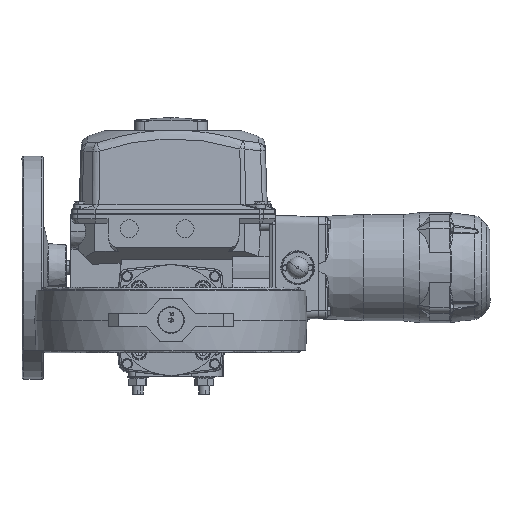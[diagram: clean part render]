
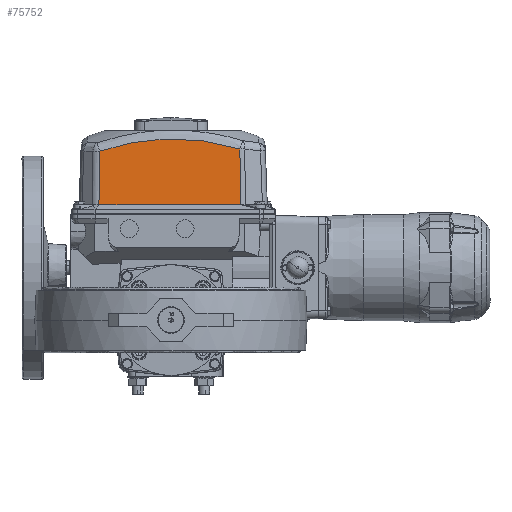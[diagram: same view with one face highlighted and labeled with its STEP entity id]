
A CAD part, front view. The second image highlights one B-rep face of the part: STEP entity #75752.
In plain terms, the highlighted planar face has unit normal (0, -0.999, 0.035).
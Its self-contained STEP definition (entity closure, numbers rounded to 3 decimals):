
#475 = LINE ( 'NONE', #98282, #86216 ) ;
#2843 = DIRECTION ( 'NONE',  ( 0., 0.999, -0.035 ) ) ;
#4308 = CARTESIAN_POINT ( 'NONE',  ( -18.396, 309.472, 203.554 ) ) ;
#5315 = CARTESIAN_POINT ( 'NONE',  ( 71.005, 309.17, 194.904 ) ) ;
#6936 = ORIENTED_EDGE ( 'NONE', *, *, #75348, .T. ) ;
#11590 = DIRECTION ( 'NONE',  ( -0.009, 0.035, 0.999 ) ) ;
#12003 = EDGE_CURVE ( 'NONE', #60743, #15811, #95377, .T. ) ;
#12057 = CARTESIAN_POINT ( 'NONE',  ( -28.465, 309.44, 202.616 ) ) ;
#12391 = CARTESIAN_POINT ( 'NONE',  ( 64.482, 309.231, 196.631 ) ) ;
#12744 = CARTESIAN_POINT ( 'NONE',  ( 11.717, 309.498, 204.294 ) ) ;
#13145 = DIRECTION ( 'NONE',  ( -1., 0., 0. ) ) ;
#13436 = CARTESIAN_POINT ( 'NONE',  ( -4.976, 309.499, 204.306 ) ) ;
#15811 = VERTEX_POINT ( 'NONE', #70556 ) ;
#17348 = PLANE ( 'NONE',  #62751 ) ;
#19731 = CARTESIAN_POINT ( 'NONE',  ( -80.655, 309.016, 190.479 ) ) ;
#20487 = CARTESIAN_POINT ( 'NONE',  ( -15.035, 309.481, 203.805 ) ) ;
#20827 = CARTESIAN_POINT ( 'NONE',  ( -48.318, 309.327, 199.397 ) ) ;
#21465 = CARTESIAN_POINT ( 'NONE',  ( 78.057, 306.906, 130.07 ) ) ;
#21557 = FACE_OUTER_BOUND ( 'NONE', #36673, .T. ) ;
#22097 = ORIENTED_EDGE ( 'NONE', *, *, #64178, .T. ) ;
#27923 = CARTESIAN_POINT ( 'NONE',  ( 44.812, 309.379, 200.872 ) ) ;
#36673 = EDGE_LOOP ( 'NONE', ( #22097, #67985, #95564, #6936 ) ) ;
#37348 = VECTOR ( 'NONE', #11590, 1000. ) ;
#40795 = VECTOR ( 'NONE', #94448, 1000. ) ;
#43465 = CARTESIAN_POINT ( 'NONE',  ( -80.655, 309.016, 190.479 ) ) ;
#49088 = CARTESIAN_POINT ( 'NONE',  ( -113.289, 306.526, 119.175 ) ) ;
#51194 = CARTESIAN_POINT ( 'NONE',  ( 66.116, 309.216, 196.211 ) ) ;
#55586 = CARTESIAN_POINT ( 'NONE',  ( 78.159, 306.525, 119.155 ) ) ;
#58269 = CARTESIAN_POINT ( 'NONE',  ( -67.842, 309.16, 194.621 ) ) ;
#58617 = CARTESIAN_POINT ( 'NONE',  ( -35.12, 309.408, 201.716 ) ) ;
#58946 = CARTESIAN_POINT ( 'NONE',  ( 25., 309.469, 203.447 ) ) ;
#59619 = CARTESIAN_POINT ( 'NONE',  ( 77.469, 309.103, 192.968 ) ) ;
#60033 = LINE ( 'NONE', #72126, #40795 ) ;
#60743 = VERTEX_POINT ( 'NONE', #21465 ) ;
#62751 = AXIS2_PLACEMENT_3D ( 'NONE', #49088, #2843, #78826 ) ;
#63095 = VERTEX_POINT ( 'NONE', #67810 ) ;
#64178 = EDGE_CURVE ( 'NONE', #88673, #63095, #60033, .T. ) ;
#67085 = CARTESIAN_POINT ( 'NONE',  ( 5.054, 309.504, 204.457 ) ) ;
#67422 = CARTESIAN_POINT ( 'NONE',  ( -8.325, 309.495, 204.189 ) ) ;
#67810 = CARTESIAN_POINT ( 'NONE',  ( -81.529, 306.906, 130.07 ) ) ;
#67985 = ORIENTED_EDGE ( 'NONE', *, *, #81992, .F. ) ;
#70556 = CARTESIAN_POINT ( 'NONE',  ( 77.469, 309.103, 192.968 ) ) ;
#72126 = CARTESIAN_POINT ( 'NONE',  ( -81.693, 306.51, 118.718 ) ) ;
#74179 = CARTESIAN_POINT ( 'NONE',  ( 59.575, 309.272, 197.821 ) ) ;
#74536 = CARTESIAN_POINT ( 'NONE',  ( -20.078, 309.467, 203.411 ) ) ;
#75199 = CARTESIAN_POINT ( 'NONE',  ( 61.212, 309.259, 197.436 ) ) ;
#75348 = EDGE_CURVE ( 'NONE', #15811, #88673, #85113, .T. ) ;
#75752 = ADVANCED_FACE ( 'NONE', ( #21557 ), #17348, .F. ) ;
#78826 = DIRECTION ( 'NONE',  ( 0., 0.035, 0.999 ) ) ;
#81598 = CARTESIAN_POINT ( 'NONE',  ( 51.386, 309.337, 199.664 ) ) ;
#81923 = CARTESIAN_POINT ( 'NONE',  ( -13.357, 309.485, 203.914 ) ) ;
#81992 = EDGE_CURVE ( 'NONE', #60743, #63095, #475, .T. ) ;
#82949 = CARTESIAN_POINT ( 'NONE',  ( 74.246, 309.138, 193.968 ) ) ;
#85113 = B_SPLINE_CURVE_WITH_KNOTS ( 'NONE', 3,
 ( #59619, #82949, #5315, #51194, #12391, #75199, #74179, #81598, #27923, #97891, #58946, #12744, #67085, #13436, #67422, #81923, #20487, #4308, #74536, #12057, #58617, #20827, #89707, #58269, #89369, #43465 ),
 .UNSPECIFIED., .F., .F.,
 ( 4, 2, 2, 2, 2, 2, 2, 2, 2, 2, 2, 2, 4 ),
 ( 0., 0.01, 0.015, 0.02, 0.04, 0.061, 0.081, 0.091, 0.096, 0.101, 0.121, 0.142, 0.162 ),
 .UNSPECIFIED. ) ;
#86216 = VECTOR ( 'NONE', #13145, 1000. ) ;
#88673 = VERTEX_POINT ( 'NONE', #19731 ) ;
#89369 = CARTESIAN_POINT ( 'NONE',  ( -74.277, 309.093, 192.682 ) ) ;
#89707 = CARTESIAN_POINT ( 'NONE',  ( -54.863, 309.278, 197.978 ) ) ;
#94448 = DIRECTION ( 'NONE',  ( -0.014, -0.035, -0.999 ) ) ;
#95377 = LINE ( 'NONE', #55586, #37348 ) ;
#95564 = ORIENTED_EDGE ( 'NONE', *, *, #12003, .T. ) ;
#97891 = CARTESIAN_POINT ( 'NONE',  ( 31.619, 309.445, 202.763 ) ) ;
#98282 = CARTESIAN_POINT ( 'NONE',  ( -81.529, 306.906, 130.07 ) ) ;
